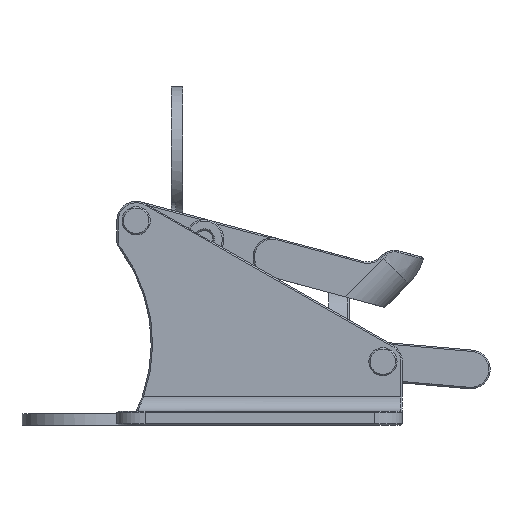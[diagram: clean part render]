
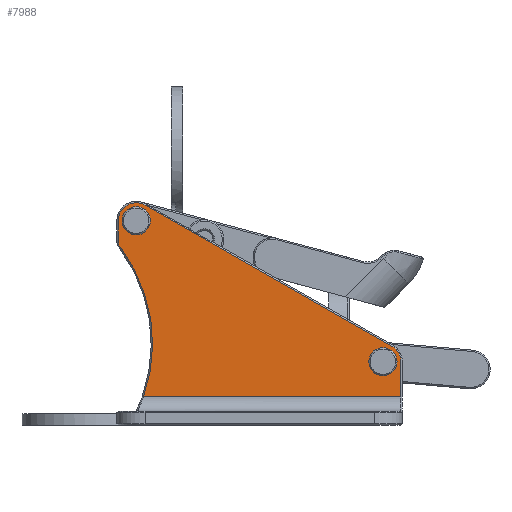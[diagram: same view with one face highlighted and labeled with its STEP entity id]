
A CAD part, left-side view. The second image highlights one B-rep face of the part: STEP entity #7988.
In plain terms, the highlighted planar face has unit normal (-1, 0, 0).
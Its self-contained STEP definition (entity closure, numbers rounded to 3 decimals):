
#69=FACE_BOUND('',#1425,.T.);
#70=FACE_BOUND('',#1426,.T.);
#231=PLANE('',#8575);
#490=CIRCLE('',#8574,2.9);
#491=CIRCLE('',#8576,5.1);
#492=CIRCLE('',#8577,5.1);
#493=CIRCLE('',#8578,3.6);
#494=CIRCLE('',#8579,45.4);
#495=CIRCLE('',#8580,2.9);
#910=FACE_OUTER_BOUND('',#1424,.T.);
#1424=EDGE_LOOP('',(#5708,#5709,#5710,#5711,#5712,#5713,#5714,#5715));
#1425=EDGE_LOOP('',(#5716));
#1426=EDGE_LOOP('',(#5717));
#2014=LINE('',#11908,#2668);
#2015=LINE('',#11912,#2669);
#2016=LINE('',#11916,#2670);
#2017=LINE('',#11921,#2671);
#2668=VECTOR('',#9550,10.);
#2669=VECTOR('',#9553,10.);
#2670=VECTOR('',#9556,10.);
#2671=VECTOR('',#9561,10.);
#3567=VERTEX_POINT('',#11902);
#3568=VERTEX_POINT('',#11906);
#3569=VERTEX_POINT('',#11907);
#3570=VERTEX_POINT('',#11909);
#3571=VERTEX_POINT('',#11911);
#3572=VERTEX_POINT('',#11913);
#3573=VERTEX_POINT('',#11915);
#3574=VERTEX_POINT('',#11917);
#3575=VERTEX_POINT('',#11919);
#3576=VERTEX_POINT('',#11922);
#4379=EDGE_CURVE('',#3567,#3567,#490,.T.);
#4381=EDGE_CURVE('',#3568,#3569,#2014,.T.);
#4382=EDGE_CURVE('',#3570,#3568,#491,.T.);
#4383=EDGE_CURVE('',#3571,#3570,#2015,.T.);
#4384=EDGE_CURVE('',#3572,#3571,#492,.T.);
#4385=EDGE_CURVE('',#3573,#3572,#2016,.T.);
#4386=EDGE_CURVE('',#3574,#3573,#493,.T.);
#4387=EDGE_CURVE('',#3575,#3574,#494,.T.);
#4388=EDGE_CURVE('',#3569,#3575,#2017,.T.);
#4389=EDGE_CURVE('',#3576,#3576,#495,.T.);
#5708=ORIENTED_EDGE('',*,*,#4381,.F.);
#5709=ORIENTED_EDGE('',*,*,#4382,.F.);
#5710=ORIENTED_EDGE('',*,*,#4383,.F.);
#5711=ORIENTED_EDGE('',*,*,#4384,.F.);
#5712=ORIENTED_EDGE('',*,*,#4385,.F.);
#5713=ORIENTED_EDGE('',*,*,#4386,.F.);
#5714=ORIENTED_EDGE('',*,*,#4387,.F.);
#5715=ORIENTED_EDGE('',*,*,#4388,.F.);
#5716=ORIENTED_EDGE('',*,*,#4389,.F.);
#5717=ORIENTED_EDGE('',*,*,#4379,.F.);
#7988=ADVANCED_FACE('',(#910,#69,#70),#231,.F.);
#8574=AXIS2_PLACEMENT_3D('',#11903,#9545,#9546);
#8575=AXIS2_PLACEMENT_3D('',#11905,#9548,#9549);
#8576=AXIS2_PLACEMENT_3D('',#11910,#9551,#9552);
#8577=AXIS2_PLACEMENT_3D('',#11914,#9554,#9555);
#8578=AXIS2_PLACEMENT_3D('',#11918,#9557,#9558);
#8579=AXIS2_PLACEMENT_3D('',#11920,#9559,#9560);
#8580=AXIS2_PLACEMENT_3D('',#11923,#9562,#9563);
#9545=DIRECTION('center_axis',(-1.,0.,0.));
#9546=DIRECTION('ref_axis',(0.,1.,0.));
#9548=DIRECTION('center_axis',(1.,0.,0.));
#9549=DIRECTION('ref_axis',(0.,1.,0.));
#9550=DIRECTION('',(0.,0.,-1.));
#9551=DIRECTION('center_axis',(1.,0.,0.));
#9552=DIRECTION('ref_axis',(0.,-1.,0.));
#9553=DIRECTION('',(0.,-0.868,-0.496));
#9554=DIRECTION('center_axis',(1.,0.,0.));
#9555=DIRECTION('ref_axis',(0.,1.,0.));
#9556=DIRECTION('',(0.,0.,1.));
#9557=DIRECTION('center_axis',(1.,0.,0.));
#9558=DIRECTION('ref_axis',(0.,0.949,-0.316));
#9559=DIRECTION('center_axis',(-1.,0.,0.));
#9560=DIRECTION('ref_axis',(0.,-0.783,0.622));
#9561=DIRECTION('',(0.,1.,0.));
#9562=DIRECTION('center_axis',(-1.,0.,0.));
#9563=DIRECTION('ref_axis',(0.,1.,0.));
#11902=CARTESIAN_POINT('',(-16.,-37.9,18.));
#11903=CARTESIAN_POINT('Origin',(-16.,-35.,18.));
#11905=CARTESIAN_POINT('Origin',(-16.,0.,31.75));
#11906=CARTESIAN_POINT('',(-16.,-40.1,18.));
#11907=CARTESIAN_POINT('',(-16.,-40.1,8.));
#11908=CARTESIAN_POINT('',(-16.,-40.1,24.875));
#11909=CARTESIAN_POINT('',(-16.,-37.53,22.428));
#11910=CARTESIAN_POINT('Origin',(-16.,-35.,18.));
#11911=CARTESIAN_POINT('',(-16.,32.47,62.428));
#11912=CARTESIAN_POINT('',(-16.,-21.376,31.659));
#11913=CARTESIAN_POINT('',(-16.,40.1,58.));
#11914=CARTESIAN_POINT('Origin',(-16.,35.,58.));
#11915=CARTESIAN_POINT('',(-16.,40.1,52.465));
#11916=CARTESIAN_POINT('',(-16.,40.1,44.875));
#11917=CARTESIAN_POINT('',(-16.,39.383,50.308));
#11918=CARTESIAN_POINT('Origin',(-16.,36.5,52.465));
#11919=CARTESIAN_POINT('',(-16.,32.928,8.));
#11920=CARTESIAN_POINT('Origin',(-16.,75.738,23.116));
#11921=CARTESIAN_POINT('',(-16.,20.25,8.));
#11922=CARTESIAN_POINT('',(-16.,32.1,58.));
#11923=CARTESIAN_POINT('Origin',(-16.,35.,58.));
